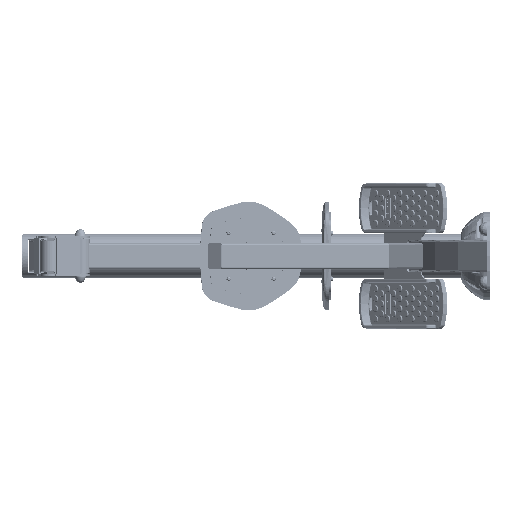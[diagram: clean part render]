
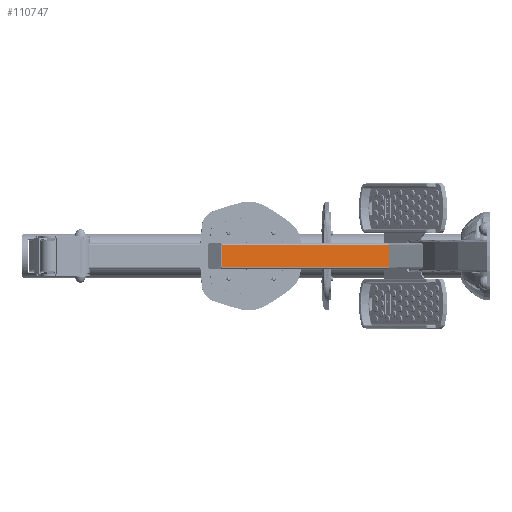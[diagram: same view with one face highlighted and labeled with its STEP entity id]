
A CAD part, left-side view. The second image highlights one B-rep face of the part: STEP entity #110747.
In plain terms, the highlighted planar face has unit normal (-0.985, -0.174, 0) as drawn and (0.985, -0.174, 0) by its records, which use the part's own axes.
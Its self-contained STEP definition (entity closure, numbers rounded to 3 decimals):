
#5965 = EDGE_LOOP ( 'NONE', ( #90972, #33687, #184910, #126634 ) ) ;
#6355 = VERTEX_POINT ( 'NONE', #31974 ) ;
#11469 = VECTOR ( 'NONE', #29014, 1000. ) ;
#22639 = EDGE_CURVE ( 'NONE', #40130, #6355, #61840, .T. ) ;
#24825 = VECTOR ( 'NONE', #178913, 1000. ) ;
#29014 = DIRECTION ( 'NONE',  ( 0.174, 0.985, 0. ) ) ;
#31974 = CARTESIAN_POINT ( 'NONE',  ( 893.56, 637.787, -35. ) ) ;
#33687 = ORIENTED_EDGE ( 'NONE', *, *, #44883, .T. ) ;
#40130 = VERTEX_POINT ( 'NONE', #92350 ) ;
#44883 = EDGE_CURVE ( 'NONE', #6355, #153922, #61966, .T. ) ;
#59594 = VECTOR ( 'NONE', #125037, 1000. ) ;
#60280 = VECTOR ( 'NONE', #177841, 1000. ) ;
#60885 = CARTESIAN_POINT ( 'NONE',  ( 786.681, 31.644, -35. ) ) ;
#61686 = CARTESIAN_POINT ( 'NONE',  ( 893.56, 637.787, 35. ) ) ;
#61840 = LINE ( 'NONE', #60885, #60280 ) ;
#61966 = LINE ( 'NONE', #134820, #24825 ) ;
#83761 = LINE ( 'NONE', #142247, #59594 ) ;
#84545 = CARTESIAN_POINT ( 'NONE',  ( 800., 107.18, 35. ) ) ;
#86509 = CARTESIAN_POINT ( 'NONE',  ( 786.681, 31.644, 35. ) ) ;
#89997 = FACE_OUTER_BOUND ( 'NONE', #5965, .T. ) ;
#90972 = ORIENTED_EDGE ( 'NONE', *, *, #22639, .T. ) ;
#92350 = CARTESIAN_POINT ( 'NONE',  ( 800., 107.18, -35. ) ) ;
#103552 = VERTEX_POINT ( 'NONE', #84545 ) ;
#107643 = AXIS2_PLACEMENT_3D ( 'NONE', #187190, #134116, #171849 ) ;
#110747 = ADVANCED_FACE ( 'NONE', ( #89997 ), #148488, .F. ) ;
#123609 = EDGE_CURVE ( 'NONE', #40130, #103552, #83761, .T. ) ;
#125037 = DIRECTION ( 'NONE',  ( 0., 0., 1. ) ) ;
#126634 = ORIENTED_EDGE ( 'NONE', *, *, #123609, .F. ) ;
#133728 = EDGE_CURVE ( 'NONE', #103552, #153922, #188149, .T. ) ;
#134116 = DIRECTION ( 'NONE',  ( -0.985, 0.174, 0. ) ) ;
#134820 = CARTESIAN_POINT ( 'NONE',  ( 893.56, 637.787, -40. ) ) ;
#142247 = CARTESIAN_POINT ( 'NONE',  ( 800., 107.18, -35. ) ) ;
#148488 = PLANE ( 'NONE',  #107643 ) ;
#153922 = VERTEX_POINT ( 'NONE', #61686 ) ;
#171849 = DIRECTION ( 'NONE',  ( -0.174, -0.985, 0. ) ) ;
#177841 = DIRECTION ( 'NONE',  ( 0.174, 0.985, 0. ) ) ;
#178913 = DIRECTION ( 'NONE',  ( 0., 0., 1. ) ) ;
#184910 = ORIENTED_EDGE ( 'NONE', *, *, #133728, .F. ) ;
#187190 = CARTESIAN_POINT ( 'NONE',  ( 786.681, 31.644, -35. ) ) ;
#188149 = LINE ( 'NONE', #86509, #11469 ) ;
